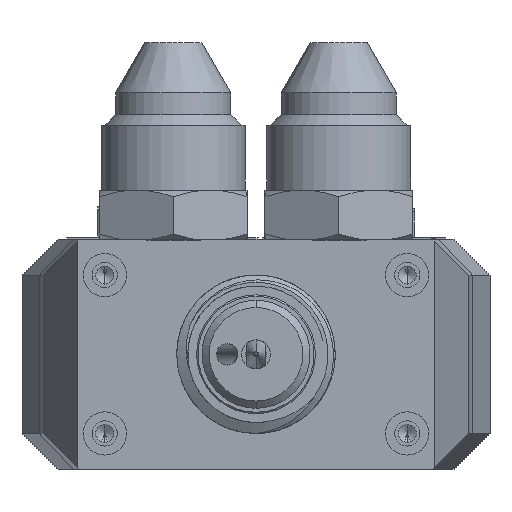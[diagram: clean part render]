
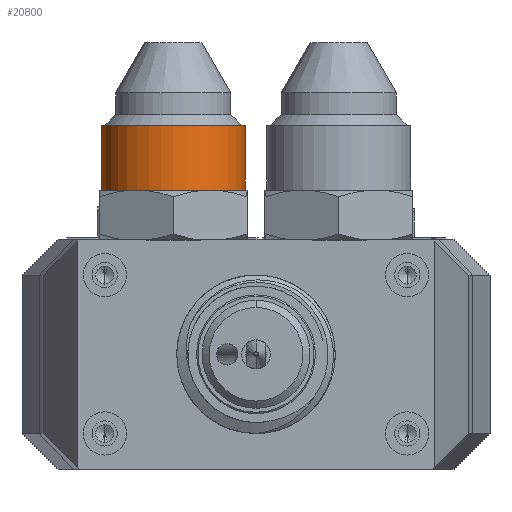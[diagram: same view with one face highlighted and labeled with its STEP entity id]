
A CAD part, front view. The second image highlights one B-rep face of the part: STEP entity #20800.
In plain terms, the highlighted cylindrical face has radius 10 mm (diameter 20 mm), a partial arc.
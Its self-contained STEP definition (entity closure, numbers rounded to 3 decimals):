
#278 = VERTEX_POINT ( 'NONE', #51300 ) ;
#3608 = AXIS2_PLACEMENT_3D ( 'NONE', #25685, #40390, #60168 ) ;
#6225 = VERTEX_POINT ( 'NONE', #18040 ) ;
#8100 = DIRECTION ( 'NONE',  ( 1., 0., 0. ) ) ;
#11721 = CARTESIAN_POINT ( 'NONE',  ( -48.998, -154.021, 1021.303 ) ) ;
#12146 = FACE_OUTER_BOUND ( 'NONE', #21878, .T. ) ;
#12381 = VERTEX_POINT ( 'NONE', #11721 ) ;
#14128 = AXIS2_PLACEMENT_3D ( 'NONE', #42612, #63706, #53010 ) ;
#18040 = CARTESIAN_POINT ( 'NONE',  ( -68.998, -154.021, 1030.303 ) ) ;
#20800 = ADVANCED_FACE ( 'NONE', ( #12146 ), #47602, .T. ) ;
#21878 = EDGE_LOOP ( 'NONE', ( #24928, #61247, #64832, #61512 ) ) ;
#22865 = LINE ( 'NONE', #58363, #46172 ) ;
#23731 = LINE ( 'NONE', #51167, #42273 ) ;
#24928 = ORIENTED_EDGE ( 'NONE', *, *, #41040, .F. ) ;
#25685 = CARTESIAN_POINT ( 'NONE',  ( -58.998, -154.021, 1030.303 ) ) ;
#33534 = CIRCLE ( 'NONE', #3608, 10. ) ;
#34394 = CIRCLE ( 'NONE', #14128, 10. ) ;
#40390 = DIRECTION ( 'NONE',  ( 0., 0., -1. ) ) ;
#41040 = EDGE_CURVE ( 'NONE', #42868, #6225, #22865, .T. ) ;
#41110 = EDGE_CURVE ( 'NONE', #42868, #12381, #34394, .T. ) ;
#42080 = DIRECTION ( 'NONE',  ( 0., 0., 1. ) ) ;
#42273 = VECTOR ( 'NONE', #42080, 1000. ) ;
#42612 = CARTESIAN_POINT ( 'NONE',  ( -58.998, -154.021, 1021.303 ) ) ;
#42868 = VERTEX_POINT ( 'NONE', #46743 ) ;
#46172 = VECTOR ( 'NONE', #52682, 1000. ) ;
#46743 = CARTESIAN_POINT ( 'NONE',  ( -68.998, -154.021, 1021.303 ) ) ;
#47602 = CYLINDRICAL_SURFACE ( 'NONE', #62731, 10. ) ;
#49982 = EDGE_CURVE ( 'NONE', #278, #6225, #33534, .T. ) ;
#51167 = CARTESIAN_POINT ( 'NONE',  ( -48.998, -154.021, 1052.575 ) ) ;
#51300 = CARTESIAN_POINT ( 'NONE',  ( -48.998, -154.021, 1030.303 ) ) ;
#52682 = DIRECTION ( 'NONE',  ( 0., 0., 1. ) ) ;
#53010 = DIRECTION ( 'NONE',  ( 1., 0., 0. ) ) ;
#53590 = EDGE_CURVE ( 'NONE', #12381, #278, #23731, .T. ) ;
#53934 = DIRECTION ( 'NONE',  ( 0., 0., 1. ) ) ;
#58363 = CARTESIAN_POINT ( 'NONE',  ( -68.998, -154.021, 1052.575 ) ) ;
#60168 = DIRECTION ( 'NONE',  ( 1., 0., 0. ) ) ;
#61247 = ORIENTED_EDGE ( 'NONE', *, *, #41110, .T. ) ;
#61512 = ORIENTED_EDGE ( 'NONE', *, *, #49982, .T. ) ;
#62731 = AXIS2_PLACEMENT_3D ( 'NONE', #63003, #53934, #8100 ) ;
#63003 = CARTESIAN_POINT ( 'NONE',  ( -58.998, -154.021, 1052.575 ) ) ;
#63706 = DIRECTION ( 'NONE',  ( 0., 0., 1. ) ) ;
#64832 = ORIENTED_EDGE ( 'NONE', *, *, #53590, .T. ) ;
